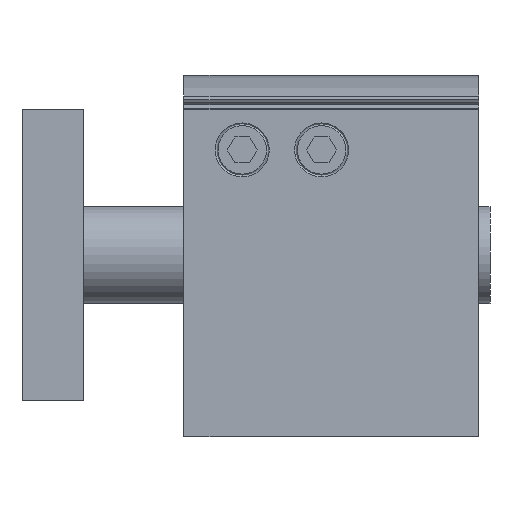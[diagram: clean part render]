
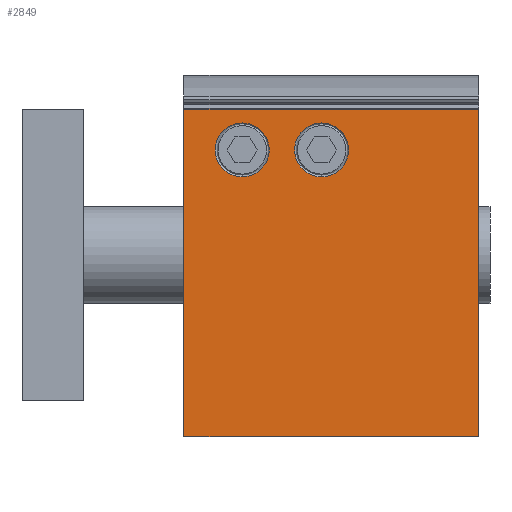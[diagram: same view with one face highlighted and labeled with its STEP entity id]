
A CAD part, front view. The second image highlights one B-rep face of the part: STEP entity #2849.
In plain terms, the highlighted planar face has unit normal (0, -1, 0).
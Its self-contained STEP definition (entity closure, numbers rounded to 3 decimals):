
#191=LINE('',#4414,#419);
#225=LINE('',#4500,#453);
#226=LINE('',#4506,#454);
#227=LINE('',#4508,#455);
#419=VECTOR('',#3480,1000.);
#453=VECTOR('',#3552,1000.);
#454=VECTOR('',#3559,1000.);
#455=VECTOR('',#3560,1000.);
#728=ORIENTED_EDGE('',*,*,#1444,.F.);
#729=ORIENTED_EDGE('',*,*,#1445,.F.);
#730=ORIENTED_EDGE('',*,*,#1446,.F.);
#731=ORIENTED_EDGE('',*,*,#1443,.F.);
#732=ORIENTED_EDGE('',*,*,#1400,.T.);
#733=ORIENTED_EDGE('',*,*,#1447,.T.);
#1400=EDGE_CURVE('',#1768,#1767,#191,.T.);
#1443=EDGE_CURVE('',#1768,#1800,#225,.T.);
#1444=EDGE_CURVE('',#1801,#1801,#2022,.T.);
#1445=EDGE_CURVE('',#1802,#1802,#2023,.T.);
#1446=EDGE_CURVE('',#1800,#1803,#226,.T.);
#1447=EDGE_CURVE('',#1767,#1803,#227,.T.);
#1767=VERTEX_POINT('',#4413);
#1768=VERTEX_POINT('',#4415);
#1800=VERTEX_POINT('',#4499);
#1801=VERTEX_POINT('',#4503);
#1802=VERTEX_POINT('',#4505);
#1803=VERTEX_POINT('',#4507);
#2022=CIRCLE('',#3104,8.331);
#2023=CIRCLE('',#3105,8.331);
#2158=EDGE_LOOP('',(#728));
#2159=EDGE_LOOP('',(#729));
#2160=EDGE_LOOP('',(#730,#731,#732,#733));
#2456=FACE_BOUND('',#2158,.T.);
#2457=FACE_BOUND('',#2159,.T.);
#2458=FACE_BOUND('',#2160,.T.);
#2754=PLANE('',#3103);
#2849=ADVANCED_FACE('',(#2456,#2457,#2458),#2754,.T.);
#3103=AXIS2_PLACEMENT_3D('',#4501,#3553,#3554);
#3104=AXIS2_PLACEMENT_3D('',#4502,#3555,#3556);
#3105=AXIS2_PLACEMENT_3D('',#4504,#3557,#3558);
#3480=DIRECTION('',(1.,0.,0.));
#3552=DIRECTION('',(0.,0.,1.));
#3553=DIRECTION('',(0.,-1.,0.));
#3554=DIRECTION('',(0.,0.,-1.));
#3555=DIRECTION('',(0.,-1.,0.));
#3556=DIRECTION('',(0.,0.,-1.));
#3557=DIRECTION('',(0.,-1.,0.));
#3558=DIRECTION('',(0.,0.,-1.));
#3559=DIRECTION('',(1.,0.,0.));
#3560=DIRECTION('',(0.,0.,1.));
#4413=CARTESIAN_POINT('',(45.,-120.,-91.));
#4414=CARTESIAN_POINT('',(-56.,-120.,-91.));
#4415=CARTESIAN_POINT('',(-56.,-120.,-91.));
#4499=CARTESIAN_POINT('',(-56.,-120.,0.));
#4500=CARTESIAN_POINT('',(-56.,-120.,-91.));
#4501=CARTESIAN_POINT('',(-56.,-120.,-91.));
#4502=CARTESIAN_POINT('',(32.5,-120.,-42.5));
#4503=CARTESIAN_POINT('',(32.5,-120.,-50.831));
#4504=CARTESIAN_POINT('',(32.5,-120.,-18.));
#4505=CARTESIAN_POINT('',(32.5,-120.,-26.331));
#4506=CARTESIAN_POINT('',(-56.,-120.,0.));
#4507=CARTESIAN_POINT('',(45.,-120.,0.));
#4508=CARTESIAN_POINT('',(45.,-120.,-91.));
